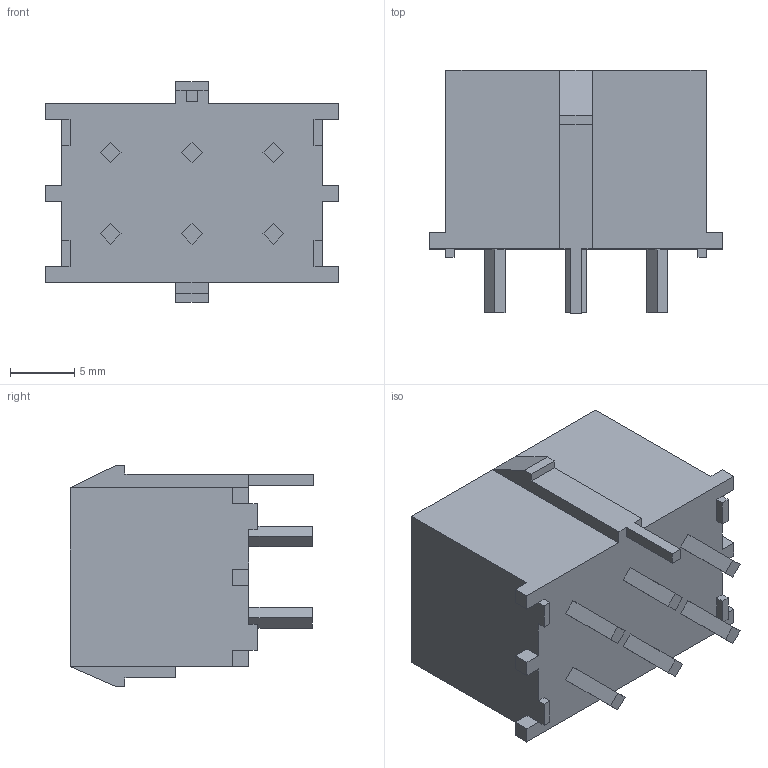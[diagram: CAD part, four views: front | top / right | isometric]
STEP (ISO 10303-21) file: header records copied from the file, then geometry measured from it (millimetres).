
FILE_DESCRIPTION((''),'2;1');
FILE_NAME('367570144','2014-12-09T',('me'),(''),'PRO/ENGINEER BY PARAMETRIC TECHNOLOGY CORPORATION, 2011490','PRO/ENGINEER BY PARAMETRIC TECHNOLOGY CORPORATION, 2011490','');
FILE_SCHEMA(('CONFIG_CONTROL_DESIGN'));
Length unit declared in the file: inch
Products named in the file (1): 367570144
Bounding box: 22.86 x 19.05 x 17.25 mm (x, y, z)
Volume: 3424.8 mm3; surface area: 3775.2 mm2
Topology: 1 solids, 1 shells, 216 faces, 574 edges, 399 vertices
Faces by surface type: plane 159, cylinder 57
Entity records: 6702 total; most frequent: DIRECTION 1156, CARTESIAN_POINT 1152, ORIENTED_EDGE 1088, EDGE_CURVE 544, VECTOR 428, LINE 428, AXIS2_PLACEMENT_3D 364, VERTEX_POINT 360
